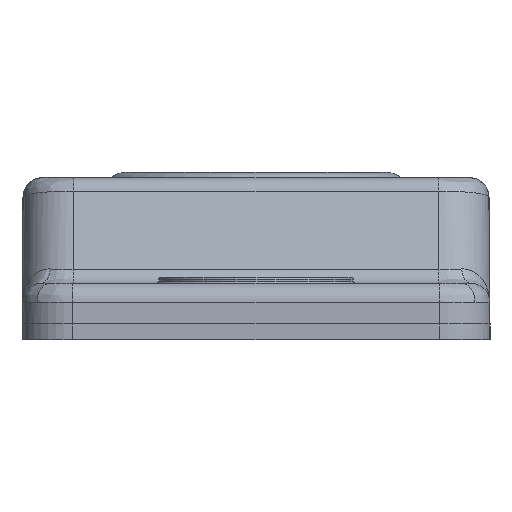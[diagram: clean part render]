
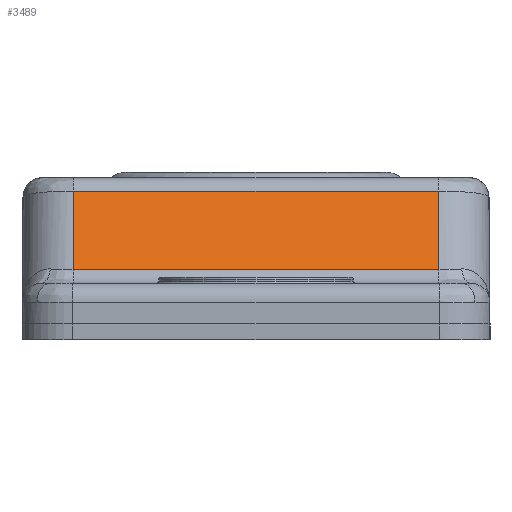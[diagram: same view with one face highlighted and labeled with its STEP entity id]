
A CAD part, left-side view. The second image highlights one B-rep face of the part: STEP entity #3489.
In plain terms, the highlighted planar face has unit normal (-0.951, 0, 0.309).
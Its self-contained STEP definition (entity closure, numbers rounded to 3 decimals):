
#336=PLANE('',#3793);
#499=FACE_OUTER_BOUND('',#700,.T.);
#700=EDGE_LOOP('',(#2821,#2822,#2823,#2824));
#835=LINE('',#5012,#1077);
#978=LINE('',#6891,#1220);
#979=LINE('',#6964,#1221);
#989=LINE('',#7034,#1231);
#1077=VECTOR('',#3948,1000.);
#1220=VECTOR('',#4449,1000.);
#1221=VECTOR('',#4462,1000.);
#1231=VECTOR('',#4488,1000.);
#1366=VERTEX_POINT('',#5000);
#1367=VERTEX_POINT('',#5011);
#1548=VERTEX_POINT('',#6890);
#1551=VERTEX_POINT('',#6940);
#1677=EDGE_CURVE('',#1366,#1367,#835,.T.);
#1976=EDGE_CURVE('',#1548,#1367,#978,.T.);
#1984=EDGE_CURVE('',#1366,#1551,#979,.T.);
#1999=EDGE_CURVE('',#1551,#1548,#989,.T.);
#2821=ORIENTED_EDGE('',*,*,#1999,.T.);
#2822=ORIENTED_EDGE('',*,*,#1976,.T.);
#2823=ORIENTED_EDGE('',*,*,#1677,.F.);
#2824=ORIENTED_EDGE('',*,*,#1984,.T.);
#3489=ADVANCED_FACE('',(#499),#336,.T.);
#3793=AXIS2_PLACEMENT_3D('',#7070,#4503,#4504);
#3948=DIRECTION('',(-0.309,-0.008,-0.951));
#4449=DIRECTION('',(0.,-1.,0.));
#4462=DIRECTION('',(0.,1.,0.));
#4488=DIRECTION('',(-0.309,0.008,-0.951));
#4503=DIRECTION('center_axis',(-0.951,0.,
0.309));
#4504=DIRECTION('ref_axis',(-0.309,0.,-0.951));
#5000=CARTESIAN_POINT('',(93.13,1.551,6.808));
#5011=CARTESIAN_POINT('',(91.825,1.516,2.79));
#5012=CARTESIAN_POINT('',(91.624,1.51,2.173));
#6890=CARTESIAN_POINT('',(91.825,20.283,2.79));
#6891=CARTESIAN_POINT('',(91.825,10.899,2.79));
#6940=CARTESIAN_POINT('',(93.13,20.247,6.808));
#6964=CARTESIAN_POINT('',(93.13,10.899,6.808));
#7034=CARTESIAN_POINT('',(91.624,20.288,2.173));
#7070=CARTESIAN_POINT('Origin',(91.6,10.899,2.099));
